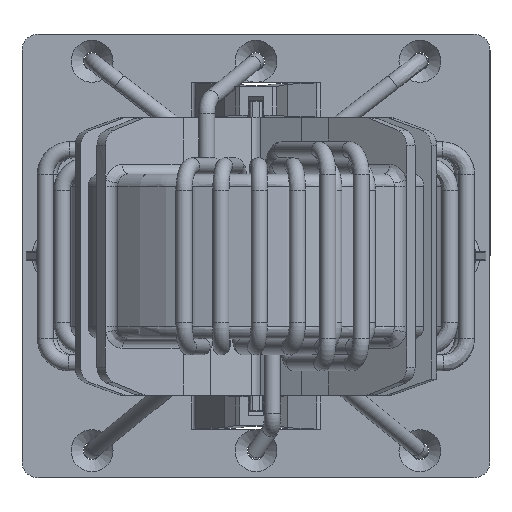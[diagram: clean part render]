
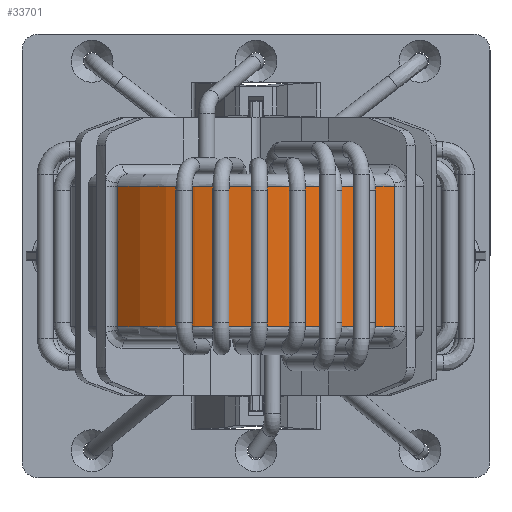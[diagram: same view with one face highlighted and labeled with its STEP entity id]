
A CAD part, left-side view. The second image highlights one B-rep face of the part: STEP entity #33701.
In plain terms, the highlighted cylindrical face has radius 23 mm (diameter 46 mm), a partial arc.
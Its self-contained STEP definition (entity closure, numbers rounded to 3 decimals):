
#33572=CARTESIAN_POINT('',(-15.335,17.142,1.45));
#33573=VERTEX_POINT('',#33572);
#33627=CARTESIAN_POINT('',(-15.335,17.142,18.85));
#33628=VERTEX_POINT('',#33627);
#33659=CARTESIAN_POINT('',(-15.335,17.142,1.45));
#33660=DIRECTION('',(0.0,0.0,1.0));
#33661=VECTOR('',#33660,17.4);
#33662=LINE('',#33659,#33661);
#33663=EDGE_CURVE('',#33573,#33628,#33662,.T.);
#33669=CARTESIAN_POINT('',(0.,0.,10.15));
#33670=DIRECTION('',(0.,0.,1.0));
#33671=DIRECTION('',(1.0,0.0,0.0));
#33672=AXIS2_PLACEMENT_3D('',#33669,#33670,#33671);
#33673=CYLINDRICAL_SURFACE('',#33672,23.);
#33674=ORIENTED_EDGE('',*,*,#33663,.F.);
#33675=CARTESIAN_POINT('',(-15.335,-17.142,1.45));
#33676=VERTEX_POINT('',#33675);
#33677=CARTESIAN_POINT('',(0.,0.,1.45));
#33678=DIRECTION('',(0.0,0.0,-1.0));
#33679=DIRECTION('',(-1.0,0.0,0.0));
#33680=AXIS2_PLACEMENT_3D('',#33677,#33678,#33679);
#33681=CIRCLE('',#33680,23.);
#33682=EDGE_CURVE('',#33676,#33573,#33681,.T.);
#33683=ORIENTED_EDGE('',*,*,#33682,.F.);
#33684=CARTESIAN_POINT('',(-15.335,-17.142,18.85));
#33685=VERTEX_POINT('',#33684);
#33686=CARTESIAN_POINT('',(-15.335,-17.142,18.85));
#33687=DIRECTION('',(0.0,0.0,-1.0));
#33688=VECTOR('',#33687,17.4);
#33689=LINE('',#33686,#33688);
#33690=EDGE_CURVE('',#33685,#33676,#33689,.T.);
#33691=ORIENTED_EDGE('',*,*,#33690,.F.);
#33692=CARTESIAN_POINT('',(0.,0.,18.85));
#33693=DIRECTION('',(0.0,0.0,1.0));
#33694=DIRECTION('',(-1.0,0.0,0.0));
#33695=AXIS2_PLACEMENT_3D('',#33692,#33693,#33694);
#33696=CIRCLE('',#33695,23.);
#33697=EDGE_CURVE('',#33628,#33685,#33696,.T.);
#33698=ORIENTED_EDGE('',*,*,#33697,.F.);
#33699=EDGE_LOOP('',(#33674,#33683,#33691,#33698));
#33700=FACE_OUTER_BOUND('',#33699,.T.);
#33701=ADVANCED_FACE('',(#33700),#33673,.T.);
